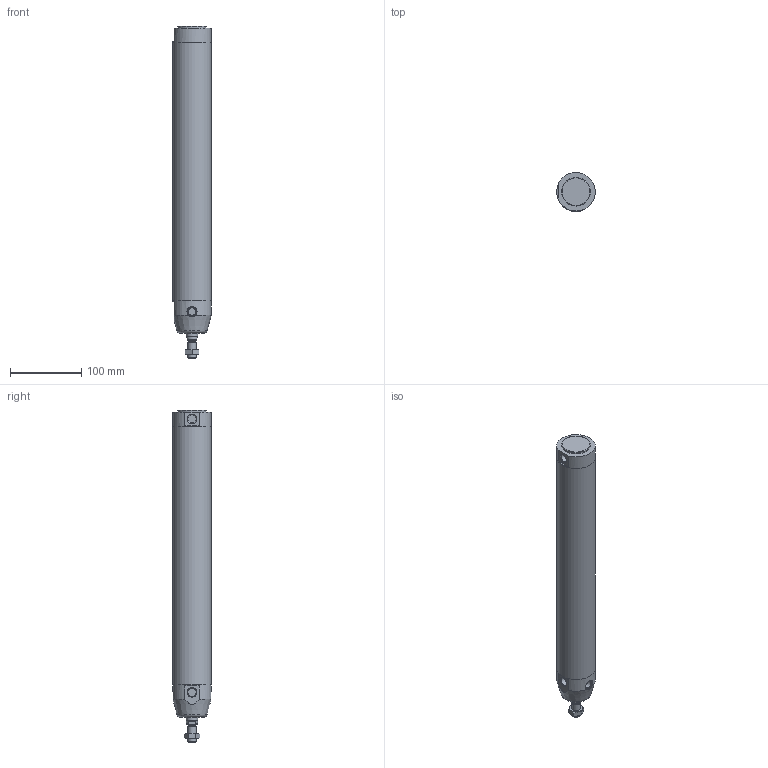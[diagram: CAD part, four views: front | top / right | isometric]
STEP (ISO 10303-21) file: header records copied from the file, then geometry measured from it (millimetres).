
FILE_DESCRIPTION(/* description */ (''),/* implementation_level */ '2;1');
FILE_NAME(/* name */ 'I:\Area Tecnica\Documenti\A-Manieri\_Inventor\12X\12X#E_###_####_#_#\12XAE_050_0320_#_#.stp',/* time_stamp */ '2015-05-08T13:40:45+02:00',/* author */ ('maniean1'),/* organization */ ('Pneumax S.p.A.'),/* preprocessor_version */ 'ST-DEVELOPER v15.2',/* originating_system */ 'Autodesk Inventor 2014',/* authorisation */ '');
FILE_SCHEMA (('AUTOMOTIVE_DESIGN { 1 0 10303 214 3 1 1 }'));
Length unit declared in the file: millimetre
Products named in the file (6): C1250_619-0320; 12X50_622; S12X50_0320; 12X_50_11; 12X50_611; 12XAE_050_0320_#_#
Bounding box: 54 x 54 x 465 mm (x, y, z)
Volume: 407591.3 mm3; surface area: 172220.8 mm2
Topology: 5 solids, 5 shells, 65 faces, 132 edges, 84 vertices
Faces by surface type: plane 33, cylinder 18, cone 13, torus 1
Full cylindrical faces by diameter (mm): 10.2 x1, 10.9 x2, 11.4 x2, 12 x2, 14 x1, 14.1 x2, 15.6 x1, 16 x1, 40 x1, 50 x2, 54 x3
Entity records: 1691 total; most frequent: CARTESIAN_POINT 368, DIRECTION 279, ORIENTED_EDGE 190, AXIS2_PLACEMENT_3D 129, EDGE_LOOP 108, EDGE_CURVE 95, VERTEX_POINT 77, ADVANCED_FACE 65
